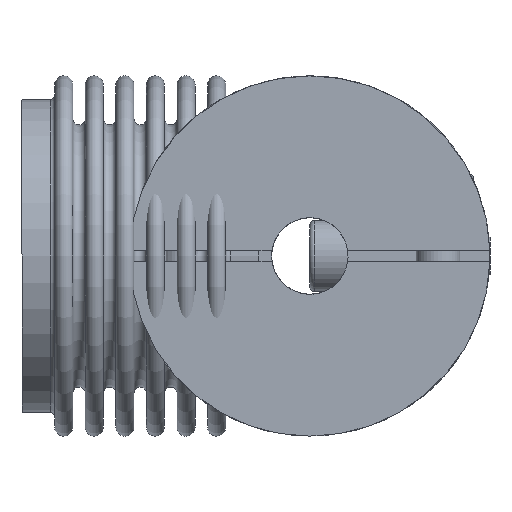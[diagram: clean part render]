
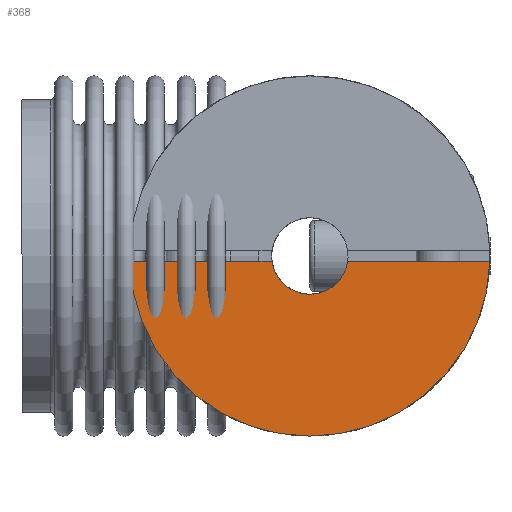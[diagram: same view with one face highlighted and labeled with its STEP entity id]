
A CAD part, front view. The second image highlights one B-rep face of the part: STEP entity #368.
In plain terms, the highlighted planar face has unit normal (0, -1, 0).
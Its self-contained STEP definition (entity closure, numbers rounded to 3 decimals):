
#368 = ADVANCED_FACE( '', ( #611 ), #612, .F. );
#611 = FACE_OUTER_BOUND( '', #893, .T. );
#612 = PLANE( '', #894 );
#893 = EDGE_LOOP( '', ( #1216, #1217, #1218, #1219 ) );
#894 = AXIS2_PLACEMENT_3D( '', #1220, #1221, #1222 );
#1216 = ORIENTED_EDGE( '', *, *, #1711, .F. );
#1217 = ORIENTED_EDGE( '', *, *, #1714, .T. );
#1218 = ORIENTED_EDGE( '', *, *, #1716, .T. );
#1219 = ORIENTED_EDGE( '', *, *, #1717, .T. );
#1220 = CARTESIAN_POINT( '', ( 0., -31., 0. ) );
#1221 = DIRECTION( '', ( 0., 1., 0. ) );
#1222 = DIRECTION( '', ( 0., 0., 1. ) );
#1711 = EDGE_CURVE( '', #1872, #1870, #1874, .T. );
#1714 = EDGE_CURVE( '', #1872, #1877, #1879, .T. );
#1716 = EDGE_CURVE( '', #1877, #1882, #1883, .T. );
#1717 = EDGE_CURVE( '', #1882, #1870, #1884, .T. );
#1870 = VERTEX_POINT( '', #2182 );
#1872 = VERTEX_POINT( '', #2185 );
#1874 = CIRCLE( '', #2188, 33. );
#1877 = VERTEX_POINT( '', #2191 );
#1879 = LINE( '', #2194, #2195 );
#1882 = VERTEX_POINT( '', #2198 );
#1883 = CIRCLE( '', #2199, 7. );
#1884 = LINE( '', #2200, #2201 );
#2182 = CARTESIAN_POINT( '', ( -32.985, -31., -1. ) );
#2185 = CARTESIAN_POINT( '', ( 32.985, -31., -1. ) );
#2188 = AXIS2_PLACEMENT_3D( '', #2544, #2545, #2546 );
#2191 = CARTESIAN_POINT( '', ( 6.928, -31., -1. ) );
#2194 = CARTESIAN_POINT( '', ( 0., -31., -1. ) );
#2195 = VECTOR( '', #2551, 1000. );
#2198 = CARTESIAN_POINT( '', ( -6.928, -31., -1. ) );
#2199 = AXIS2_PLACEMENT_3D( '', #2555, #2556, #2557 );
#2200 = CARTESIAN_POINT( '', ( 0., -31., -1. ) );
#2201 = VECTOR( '', #2558, 1000. );
#2544 = CARTESIAN_POINT( '', ( 0., -31., 0. ) );
#2545 = DIRECTION( '', ( 0., 1., 0. ) );
#2546 = DIRECTION( '', ( 1., 0., 0. ) );
#2551 = DIRECTION( '', ( -1., 0., 0. ) );
#2555 = CARTESIAN_POINT( '', ( 0., -31., 0. ) );
#2556 = DIRECTION( '', ( 0., 1., 0. ) );
#2557 = DIRECTION( '', ( 1., 0., 0. ) );
#2558 = DIRECTION( '', ( -1., 0., 0. ) );
